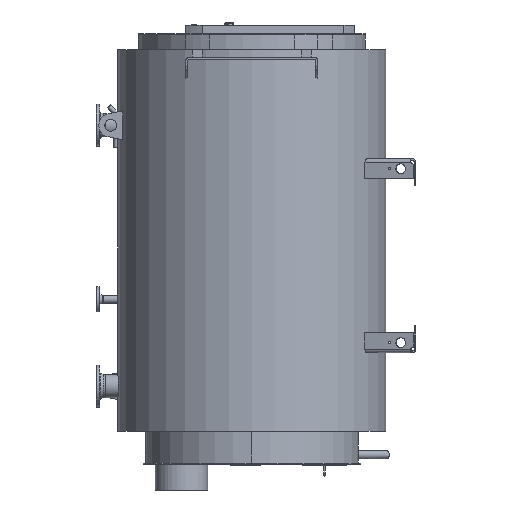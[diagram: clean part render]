
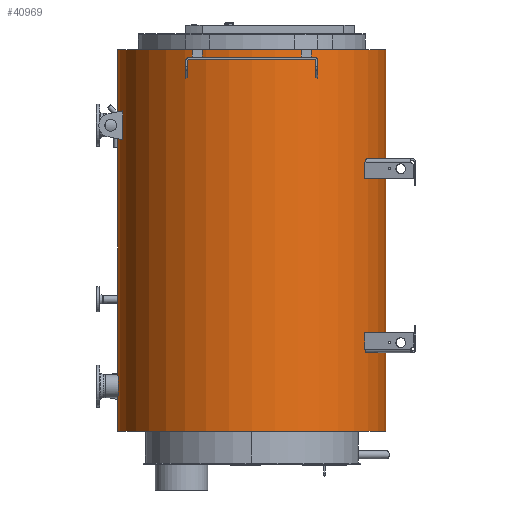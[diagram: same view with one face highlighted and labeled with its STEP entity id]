
A CAD part, left-side view. The second image highlights one B-rep face of the part: STEP entity #40969.
In plain terms, the highlighted cylindrical face has radius 800 mm (diameter 1600 mm), a full revolution.
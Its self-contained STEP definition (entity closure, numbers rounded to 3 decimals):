
#40933=CARTESIAN_POINT('',(800.,-0.,-2088.));
#40934=VERTEX_POINT('',#40933);
#40935=CARTESIAN_POINT('',(0.,0.,-2088.));
#40936=DIRECTION('',(0.,0.,1.));
#40937=DIRECTION('',(1.,0.,-0.));
#40938=AXIS2_PLACEMENT_3D('',#40935,#40936,#40937);
#40939=CIRCLE('',#40938,800.);
#40940=EDGE_CURVE('',#40934,#40934,#40939,.T.);
#40945=CARTESIAN_POINT('',(0.,0.,-2088.002));
#40946=DIRECTION('',(0.,0.,1.));
#40947=DIRECTION('',(1.,0.,-0.));
#40948=AXIS2_PLACEMENT_3D('',#40945,#40946,#40947);
#40949=CYLINDRICAL_SURFACE('',#40948,800.);
#40950=CARTESIAN_POINT('',(800.,-0.,192.));
#40951=VERTEX_POINT('',#40950);
#40952=CARTESIAN_POINT('',(800.,0.,192.));
#40953=DIRECTION('',(-0.,-0.,-1.));
#40954=VECTOR('',#40953,2280.);
#40955=LINE('',#40952,#40954);
#40956=EDGE_CURVE('',#40951,#40934,#40955,.T.);
#40957=ORIENTED_EDGE('',*,*,#40956,.T.);
#40958=ORIENTED_EDGE('',*,*,#40940,.T.);
#40959=ORIENTED_EDGE('',*,*,#40956,.F.);
#40960=CARTESIAN_POINT('',(0.,0.,192.));
#40961=DIRECTION('',(0.,0.,1.));
#40962=DIRECTION('',(1.,0.,-0.));
#40963=AXIS2_PLACEMENT_3D('',#40960,#40961,#40962);
#40964=CIRCLE('',#40963,800.);
#40965=EDGE_CURVE('',#40951,#40951,#40964,.T.);
#40966=ORIENTED_EDGE('',*,*,#40965,.F.);
#40967=EDGE_LOOP('',(#40957,#40958,#40959,#40966));
#40968=FACE_BOUND('',#40967,.T.);
#40969=ADVANCED_FACE('',(#40968),#40949,.T.);
